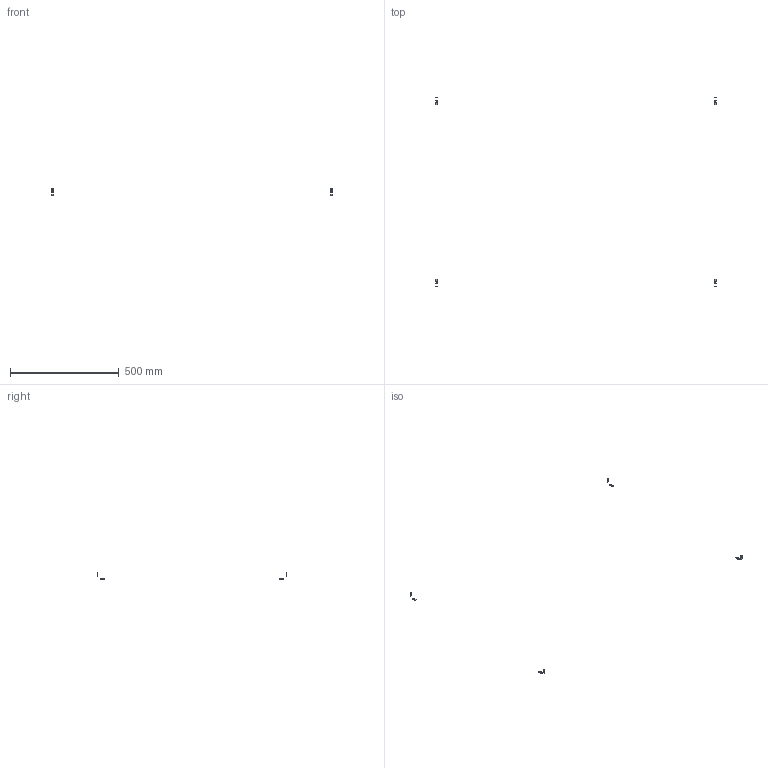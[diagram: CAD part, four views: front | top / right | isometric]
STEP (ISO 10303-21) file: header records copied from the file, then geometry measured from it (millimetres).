
FILE_DESCRIPTION(/* description */ (''),/* implementation_level */ '2;1');
FILE_NAME(/* name */ '12.frame-table#12.3#HNTPZ5-5',/* time_stamp */ '2014-12-01T20:19:42+01:00',/* author */ (''),/* organization */ (''),/* preprocessor_version */ 'ST-DEVELOPER v14',/* originating_system */ '',/* authorisation */ '');
FILE_SCHEMA (('AUTOMOTIVE_DESIGN'));
Length unit declared in the file: millimetre
Products named in the file (2): Document; nut tslot, post, M5
Assembly tree (4 placements, depth 2):
  Document
    nut tslot, post, M5  x4
Bounding box: 1288.3 x 870.4 x 29.2 mm (x, y, z)
Volume: 2520.2 mm3; surface area: 3356.2 mm2
Topology: 8 solids, 8 shells, 104 faces, 288 edges, 192 vertices
Faces by surface type: plane 88, bspline 16
Entity records: 4833 total; most frequent: CARTESIAN_POINT 2287, B_SPLINE_CURVE_WITH_KNOTS 500, ORIENTED_EDGE 360, PCURVE 360, DEFINITIONAL_REPRESENTATION 360, SURFACE_CURVE 180, EDGE_CURVE 180, VERTEX_POINT 120
